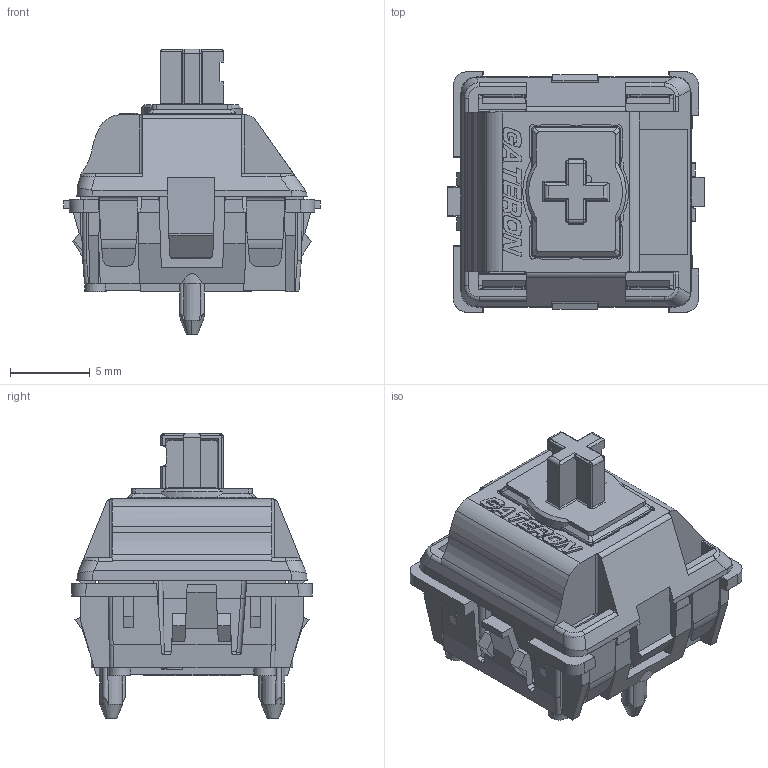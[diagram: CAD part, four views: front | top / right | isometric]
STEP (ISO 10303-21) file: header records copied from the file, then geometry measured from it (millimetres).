
FILE_DESCRIPTION(/* description */ (''),/* implementation_level */ '2;1');
FILE_NAME(/* name */ 'KS-20TF10B045NW-Y89 FB3D 20240921.stp',/* time_stamp */ '2024-09-21T13:53:33+08:00',/* author */ (''),/* organization */ (''),/* preprocessor_version */ 'ST-DEVELOPER v14',/* originating_system */ 'SIEMENS PLM Software NX 8.0',/* authorisation */ '');
FILE_SCHEMA (('AP203_CONFIGURATION_CONTROLLED_3D_DESIGN_OF_MECHANICAL_PARTS_AND_ASSEMBLIES_MIM_LF { 1 0 10303 403 2 1 2}'));
Length unit declared in the file: millimetre
Products named in the file (1): RD-021B412115ec7
Bounding box: 16.1 x 15.1 x 17.92 mm (x, y, z)
Volume: 1541.4 mm3; surface area: 1637.9 mm2
Topology: 1 solids, 3 shells, 881 faces, 2521 edges, 1649 vertices
Faces by surface type: plane 618, cylinder 145, bspline 74, cone 22, extrusion 17, torus 4, sphere 1
Entity records: 32432 total; most frequent: CARTESIAN_POINT 9882, ORIENTED_EDGE 5036, DIRECTION 4135, EDGE_CURVE 2518, VECTOR 1913, LINE 1896, VERTEX_POINT 1648, AXIS2_PLACEMENT_3D 1111
